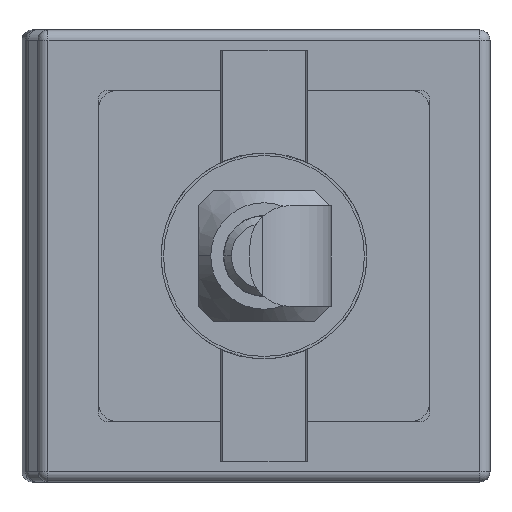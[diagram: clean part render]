
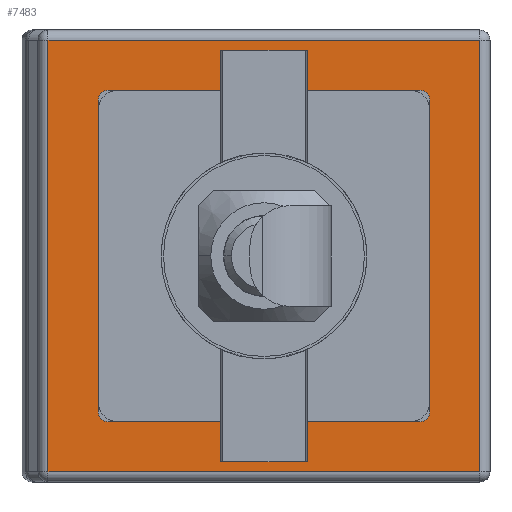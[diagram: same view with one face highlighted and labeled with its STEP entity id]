
A CAD part, front view. The second image highlights one B-rep face of the part: STEP entity #7483.
In plain terms, the highlighted planar face has unit normal (0, -1, 0) as drawn and (0, 1, 0) by its records, which use the part's own axes.
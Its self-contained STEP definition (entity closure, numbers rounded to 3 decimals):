
#122 = LINE ( 'NONE', #6090, #1915 ) ;
#145 = DIRECTION ( 'NONE',  ( 0., 1., 0. ) ) ;
#151 = CARTESIAN_POINT ( 'NONE',  ( -0.8, 29.999, 6. ) ) ;
#198 = DIRECTION ( 'NONE',  ( 1., 0., 0. ) ) ;
#201 = DIRECTION ( 'NONE',  ( -1., 0., 0. ) ) ;
#249 = DIRECTION ( 'NONE',  ( 0., -1., 0. ) ) ;
#298 = CARTESIAN_POINT ( 'NONE',  ( 15.5, 29.999, 38. ) ) ;
#309 = VERTEX_POINT ( 'NONE', #859 ) ;
#363 = VERTEX_POINT ( 'NONE', #7397 ) ;
#443 = ORIENTED_EDGE ( 'NONE', *, *, #6565, .T. ) ;
#506 = ORIENTED_EDGE ( 'NONE', *, *, #1301, .T. ) ;
#595 = VECTOR ( 'NONE', #1609, 1000. ) ;
#780 = CARTESIAN_POINT ( 'NONE',  ( -15.5, 29.999, 6. ) ) ;
#791 = CIRCLE ( 'NONE', #7014, 1. ) ;
#859 = CARTESIAN_POINT ( 'NONE',  ( -16.5, 29.999, 7. ) ) ;
#917 = LINE ( 'NONE', #4581, #7695 ) ;
#930 = VERTEX_POINT ( 'NONE', #4761 ) ;
#966 = VERTEX_POINT ( 'NONE', #780 ) ;
#1301 = EDGE_CURVE ( 'NONE', #309, #966, #1889, .T. ) ;
#1515 = ORIENTED_EDGE ( 'NONE', *, *, #9382, .T. ) ;
#1519 = VERTEX_POINT ( 'NONE', #4465 ) ;
#1590 = LINE ( 'NONE', #6886, #1740 ) ;
#1609 = DIRECTION ( 'NONE',  ( 0., 0., 1. ) ) ;
#1632 = LINE ( 'NONE', #3935, #3089 ) ;
#1649 = DIRECTION ( 'NONE',  ( 0., 0., -1. ) ) ;
#1681 = DIRECTION ( 'NONE',  ( 1., 0., 0. ) ) ;
#1740 = VECTOR ( 'NONE', #6168, 1000. ) ;
#1889 = CIRCLE ( 'NONE', #5641, 1. ) ;
#1915 = VECTOR ( 'NONE', #5452, 1000. ) ;
#1989 = ORIENTED_EDGE ( 'NONE', *, *, #4020, .T. ) ;
#2079 = CARTESIAN_POINT ( 'NONE',  ( -15.5, 29.999, 38. ) ) ;
#2083 = CARTESIAN_POINT ( 'NONE',  ( 15.5, 29.999, 7. ) ) ;
#2405 = CARTESIAN_POINT ( 'NONE',  ( -15.5, 29.999, 7. ) ) ;
#2415 = DIRECTION ( 'NONE',  ( -1., 0., 0. ) ) ;
#2680 = DIRECTION ( 'NONE',  ( 1., 0., 0. ) ) ;
#2685 = AXIS2_PLACEMENT_3D ( 'NONE', #2079, #7064, #9233 ) ;
#2808 = DIRECTION ( 'NONE',  ( 0., 0., -1. ) ) ;
#2924 = EDGE_CURVE ( 'NONE', #363, #8774, #917, .T. ) ;
#3045 = DIRECTION ( 'NONE',  ( 0., 0., 1. ) ) ;
#3089 = VECTOR ( 'NONE', #198, 1000. ) ;
#3182 = VERTEX_POINT ( 'NONE', #4005 ) ;
#3453 = CARTESIAN_POINT ( 'NONE',  ( -21.5, 29.999, 1. ) ) ;
#3466 = CARTESIAN_POINT ( 'NONE',  ( 16.5, 29.999, 38. ) ) ;
#3531 = ORIENTED_EDGE ( 'NONE', *, *, #2924, .T. ) ;
#3579 = ORIENTED_EDGE ( 'NONE', *, *, #6888, .T. ) ;
#3615 = DIRECTION ( 'NONE',  ( 0., -1., 0. ) ) ;
#3846 = DIRECTION ( 'NONE',  ( 0., -1., 0. ) ) ;
#3878 = PLANE ( 'NONE',  #5723 ) ;
#3935 = CARTESIAN_POINT ( 'NONE',  ( 13.4, 29.999, 44. ) ) ;
#3977 = DIRECTION ( 'NONE',  ( 1., 0., 0. ) ) ;
#4005 = CARTESIAN_POINT ( 'NONE',  ( -16.5, 29.999, 38. ) ) ;
#4020 = EDGE_CURVE ( 'NONE', #3182, #309, #4603, .T. ) ;
#4027 = EDGE_LOOP ( 'NONE', ( #1515, #3579, #443, #4713 ) ) ;
#4191 = VERTEX_POINT ( 'NONE', #9317 ) ;
#4465 = CARTESIAN_POINT ( 'NONE',  ( 21.5, 29.999, 44. ) ) ;
#4581 = CARTESIAN_POINT ( 'NONE',  ( 16.5, 29.999, 3.75 ) ) ;
#4603 = LINE ( 'NONE', #7653, #6196 ) ;
#4661 = FACE_OUTER_BOUND ( 'NONE', #4027, .T. ) ;
#4713 = ORIENTED_EDGE ( 'NONE', *, *, #5123, .T. ) ;
#4761 = CARTESIAN_POINT ( 'NONE',  ( 15.5, 29.999, 39. ) ) ;
#4873 = CIRCLE ( 'NONE', #5038, 1. ) ;
#5038 = AXIS2_PLACEMENT_3D ( 'NONE', #2083, #3615, #2808 ) ;
#5123 = EDGE_CURVE ( 'NONE', #1519, #9343, #122, .T. ) ;
#5318 = EDGE_CURVE ( 'NONE', #9063, #3182, #5988, .T. ) ;
#5452 = DIRECTION ( 'NONE',  ( 0., 0., -1. ) ) ;
#5512 = LINE ( 'NONE', #6188, #595 ) ;
#5641 = AXIS2_PLACEMENT_3D ( 'NONE', #2405, #3846, #201 ) ;
#5723 = AXIS2_PLACEMENT_3D ( 'NONE', #8354, #145, #2680 ) ;
#5988 = CIRCLE ( 'NONE', #2685, 1. ) ;
#6090 = CARTESIAN_POINT ( 'NONE',  ( 21.5, 29.999, 0. ) ) ;
#6093 = LINE ( 'NONE', #9064, #8331 ) ;
#6095 = CARTESIAN_POINT ( 'NONE',  ( -15.5, 29.999, 39. ) ) ;
#6168 = DIRECTION ( 'NONE',  ( -1., 0., 0. ) ) ;
#6188 = CARTESIAN_POINT ( 'NONE',  ( -21.5, 29.999, 0. ) ) ;
#6196 = VECTOR ( 'NONE', #1649, 1000. ) ;
#6300 = FACE_BOUND ( 'NONE', #8242, .T. ) ;
#6383 = EDGE_CURVE ( 'NONE', #930, #9063, #6093, .T. ) ;
#6432 = VECTOR ( 'NONE', #3977, 1000. ) ;
#6565 = EDGE_CURVE ( 'NONE', #8031, #1519, #1632, .T. ) ;
#6886 = CARTESIAN_POINT ( 'NONE',  ( -22.5, 29.999, 1. ) ) ;
#6888 = EDGE_CURVE ( 'NONE', #7647, #8031, #5512, .T. ) ;
#7014 = AXIS2_PLACEMENT_3D ( 'NONE', #298, #249, #1681 ) ;
#7064 = DIRECTION ( 'NONE',  ( 0., -1., 0. ) ) ;
#7397 = CARTESIAN_POINT ( 'NONE',  ( 16.5, 29.999, 7. ) ) ;
#7483 = ADVANCED_FACE ( 'NONE', ( #4661, #6300 ), #3878, .T. ) ;
#7647 = VERTEX_POINT ( 'NONE', #3453 ) ;
#7653 = CARTESIAN_POINT ( 'NONE',  ( -16.5, 29.999, 18.75 ) ) ;
#7695 = VECTOR ( 'NONE', #3045, 1000. ) ;
#7721 = ORIENTED_EDGE ( 'NONE', *, *, #8479, .T. ) ;
#8031 = VERTEX_POINT ( 'NONE', #8090 ) ;
#8090 = CARTESIAN_POINT ( 'NONE',  ( -21.5, 29.999, 44. ) ) ;
#8242 = EDGE_LOOP ( 'NONE', ( #1989, #506, #7721, #9049, #3531, #9468, #8973, #8681 ) ) ;
#8331 = VECTOR ( 'NONE', #2415, 1000. ) ;
#8354 = CARTESIAN_POINT ( 'NONE',  ( 13.4, 29.999, 0. ) ) ;
#8421 = EDGE_CURVE ( 'NONE', #8774, #930, #791, .T. ) ;
#8479 = EDGE_CURVE ( 'NONE', #966, #4191, #9142, .T. ) ;
#8681 = ORIENTED_EDGE ( 'NONE', *, *, #5318, .T. ) ;
#8774 = VERTEX_POINT ( 'NONE', #3466 ) ;
#8973 = ORIENTED_EDGE ( 'NONE', *, *, #6383, .T. ) ;
#9049 = ORIENTED_EDGE ( 'NONE', *, *, #9219, .T. ) ;
#9056 = CARTESIAN_POINT ( 'NONE',  ( 21.5, 29.999, 1. ) ) ;
#9063 = VERTEX_POINT ( 'NONE', #6095 ) ;
#9064 = CARTESIAN_POINT ( 'NONE',  ( 14.2, 29.999, 39. ) ) ;
#9142 = LINE ( 'NONE', #151, #6432 ) ;
#9219 = EDGE_CURVE ( 'NONE', #4191, #363, #4873, .T. ) ;
#9233 = DIRECTION ( 'NONE',  ( 0., 0., 1. ) ) ;
#9317 = CARTESIAN_POINT ( 'NONE',  ( 15.5, 29.999, 6. ) ) ;
#9343 = VERTEX_POINT ( 'NONE', #9056 ) ;
#9382 = EDGE_CURVE ( 'NONE', #9343, #7647, #1590, .T. ) ;
#9468 = ORIENTED_EDGE ( 'NONE', *, *, #8421, .T. ) ;
